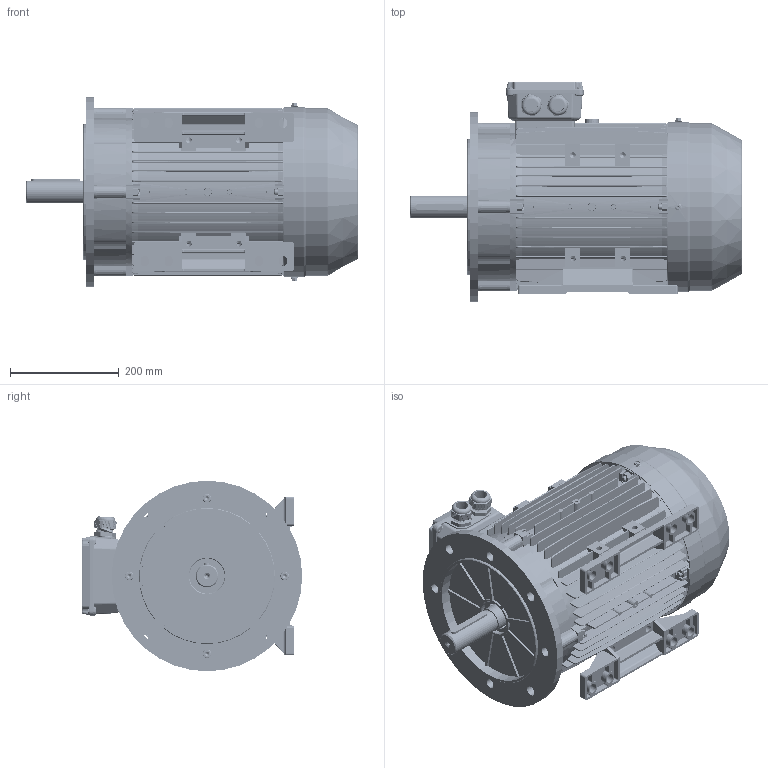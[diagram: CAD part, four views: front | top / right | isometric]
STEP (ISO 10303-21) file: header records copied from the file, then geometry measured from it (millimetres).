
FILE_DESCRIPTION (( 'STEP AP203' ), '1' );
FILE_NAME ('MS160 assembly B35 new TB.STEP', '2017-11-26T10:33:37', ( 'user' ), ( 'china' ), 'SwSTEP 2.0', 'SolidWorks 2016', '' );
FILE_SCHEMA (( 'CONFIG_CONTROL_DESIGN' ));
Length unit declared in the file: millimetre
Products named in the file (18): GB-T 41-2000 M10; GB-T 29.2-1988 M5_10; GB-T 5780-2000 M10_045; M160菁褐; M32 cable gland; M160諉盄碟裔(陔)_MS160; M160-Shaft ; M160瑞欶_136; M160儂褲; MS160 assembly B35 new TB; GB-T 70.1-2000 M10_040; GB-T 29.2-1988 M6鞠褒坋趼湍菜_08; M160傷裔B5; M160傷裔B3_Post; GB-T 29.2-1988 M6鞠褒坋趼湍菜_12; M160堤盄碟釱(陔)_MS160; M160堤盄碟(陔); MS160 綴裔瑞欶郪磁_MS
Assembly tree (39 placements, depth 3):
  MS160 assembly B35 new TB
    M160儂褲
    M160-Shaft 
    M160堤盄碟(陔)
      M160堤盄碟釱(陔)_MS160
      M160諉盄碟裔(陔)_MS160
      GB-T 29.2-1988 M5_10  x4
      M32 cable gland  x2
    MS160 綴裔瑞欶郪磁_MS
      M160傷裔B3_Post
      M160瑞欶_136
      GB-T 29.2-1988 M6鞠褒坋趼湍菜_08  x3
      GB-T 29.2-1988 M6鞠褒坋趼湍菜_12  x3
    M160菁褐  x2
    M160傷裔B5
    GB-T 41-2000 M10  x8
    GB-T 70.1-2000 M10_040  x4
    GB-T 5780-2000 M10_045  x4
Bounding box: 609.99 x 405 x 350 mm (x, y, z)
Volume: 6339004.2 mm3; surface area: 2463683.9 mm2
Topology: 39 solids, 39 shells, 7717 faces, 20640 edges, 13011 vertices
Faces by surface type: plane 3193, cylinder 2916, bspline 681, cone 678, torus 183, sphere 66
Entity records: 242949 total; most frequent: CARTESIAN_POINT 84043, ORIENTED_EDGE 34046, DIRECTION 31434, EDGE_CURVE 17023, AXIS2_PLACEMENT_3D 11152, VERTEX_POINT 10910, LINE 9130, VECTOR 9130
